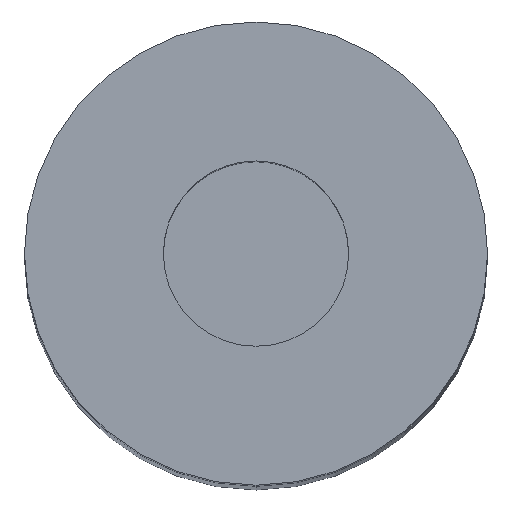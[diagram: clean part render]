
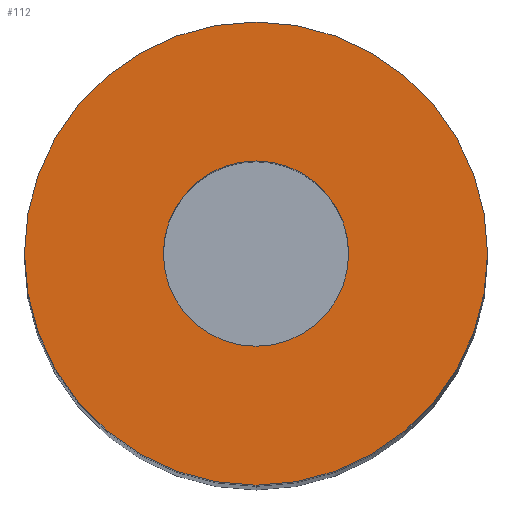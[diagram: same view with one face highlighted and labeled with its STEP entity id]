
A CAD part, top view. The second image highlights one B-rep face of the part: STEP entity #112.
In plain terms, the highlighted planar face has unit normal (0, 0, 1).
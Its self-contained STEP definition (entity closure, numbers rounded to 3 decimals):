
#99=PLANE('',#310);
#104=FACE_BOUND('',#147,.T.);
#105=FACE_BOUND('',#148,.T.);
#112=ADVANCED_FACE('',(#104,#105),#99,.T.);
#147=EDGE_LOOP('',(#191,#192));
#148=EDGE_LOOP('',(#193,#194));
#163=CIRCLE('',#302,4.);
#166=CIRCLE('',#306,4.);
#167=CIRCLE('',#308,10.);
#168=CIRCLE('',#309,10.);
#191=ORIENTED_EDGE('',*,*,#263,.F.);
#192=ORIENTED_EDGE('',*,*,#264,.F.);
#193=ORIENTED_EDGE('',*,*,#262,.T.);
#194=ORIENTED_EDGE('',*,*,#258,.T.);
#240=VERTEX_POINT('',#420);
#241=VERTEX_POINT('',#422);
#243=VERTEX_POINT('',#431);
#244=VERTEX_POINT('',#432);
#258=EDGE_CURVE('',#241,#240,#163,.T.);
#262=EDGE_CURVE('',#240,#241,#166,.T.);
#263=EDGE_CURVE('',#243,#244,#167,.T.);
#264=EDGE_CURVE('',#244,#243,#168,.T.);
#302=AXIS2_PLACEMENT_3D('',#421,#340,#341);
#306=AXIS2_PLACEMENT_3D('',#428,#349,#350);
#308=AXIS2_PLACEMENT_3D('',#430,#353,#354);
#309=AXIS2_PLACEMENT_3D('',#433,#355,#356);
#310=AXIS2_PLACEMENT_3D('',#434,#357,#358);
#340=DIRECTION('',(0.,0.,-1.));
#341=DIRECTION('',(1.,0.,0.));
#349=DIRECTION('',(0.,0.,-1.));
#350=DIRECTION('',(-1.,0.,0.));
#353=DIRECTION('',(0.,0.,-1.));
#354=DIRECTION('',(1.,0.,0.));
#355=DIRECTION('',(0.,0.,-1.));
#356=DIRECTION('',(-1.,0.,0.));
#357=DIRECTION('',(0.,0.,1.));
#358=DIRECTION('',(-1.,0.,0.));
#420=CARTESIAN_POINT('',(0.,4.,0.));
#421=CARTESIAN_POINT('',(0.,0.,0.));
#422=CARTESIAN_POINT('',(0.,-4.,0.));
#428=CARTESIAN_POINT('',(0.,0.,0.));
#430=CARTESIAN_POINT('',(0.,0.,0.));
#431=CARTESIAN_POINT('',(0.,-10.,0.));
#432=CARTESIAN_POINT('',(0.,10.,0.));
#433=CARTESIAN_POINT('',(0.,0.,0.));
#434=CARTESIAN_POINT('',(0.,0.,0.));
